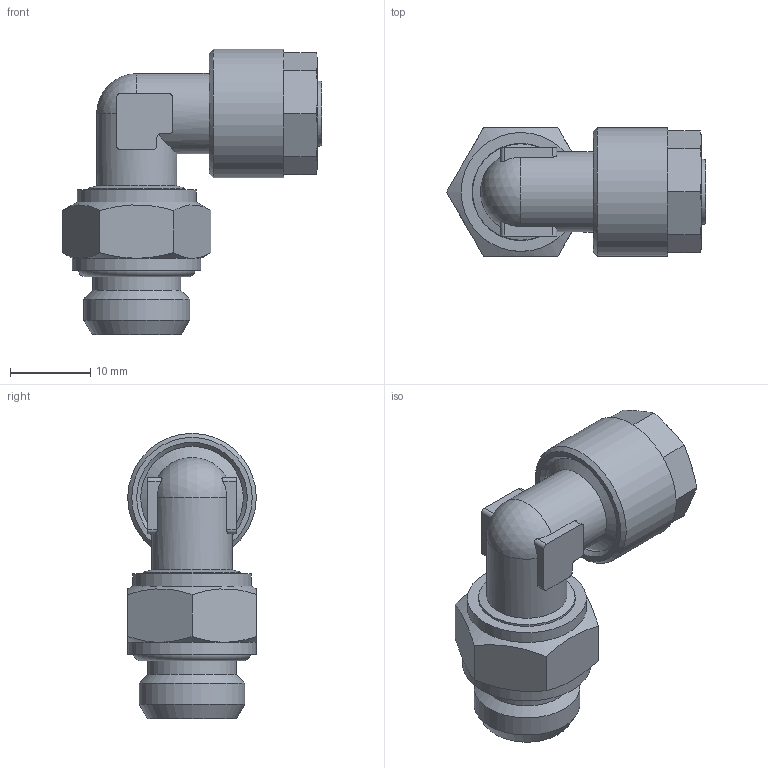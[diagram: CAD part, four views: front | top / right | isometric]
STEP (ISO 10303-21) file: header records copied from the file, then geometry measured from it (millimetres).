
FILE_DESCRIPTION(/* description */ (''),/* implementation_level */ '2;1');
FILE_NAME(/* name */ '11155_305DZ_108_G14_05.07.17',/* time_stamp */ '2017-07-05T10:23:53+02:00',/* author */ (''),/* organization */ (''),/* preprocessor_version */ 'ST-DEVELOPER v16.5',/* originating_system */ 'HiCAD 2016 2102.2 Build 618',/* authorisation */ '');
FILE_SCHEMA (('AUTOMOTIVE_DESIGN { 1 0 10303 214 1 1 1 1 }'));
Length unit declared in the file: millimetre
Products named in the file (5): Root; 17007; OR 11.11X1.78; 10155_Gewinde; 11155_Anschluss
Assembly tree (4 placements, depth 2):
  Root
    17007
    OR 11.11X1.78
    10155_Gewinde
    11155_Anschluss
Bounding box: 32.24 x 16 x 35.5 mm (x, y, z)
Volume: 4689.2 mm3; surface area: 5739.9 mm2
Topology: 4 solids, 4 shells, 102 faces, 254 edges, 164 vertices
Faces by surface type: plane 40, cone 29, cylinder 28, torus 4, sphere 1
Full cylindrical faces by diameter (mm): 7 x1, 8 x2, 8.5 x1, 10 x3, 11 x1, 12 x1, 12.1 x1, 12.773 x1, 13.157 x1, 14 x1, 14.8 x1, 16 x2
Entity records: 7790 total; most frequent: CARTESIAN_POINT 3465, DIRECTION 512, PRESENTATION_STYLE_ASSIGNMENT 406, COLOUR_RGB 404, DRAUGHTING_PRE_DEFINED_CURVE_FONT 402, CURVE_STYLE 402, OVER_RIDING_STYLED_ITEM 402, ORIENTED_EDGE 402
